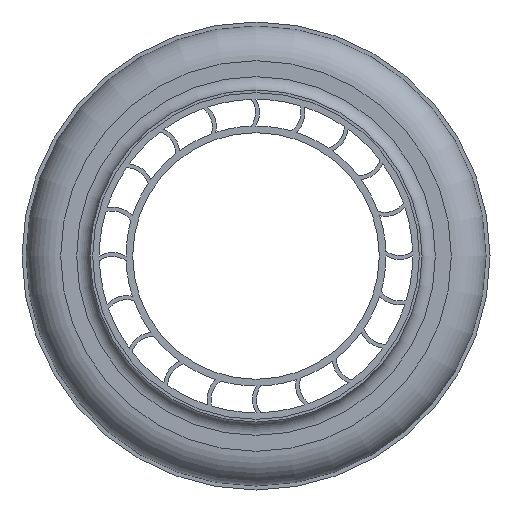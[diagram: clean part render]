
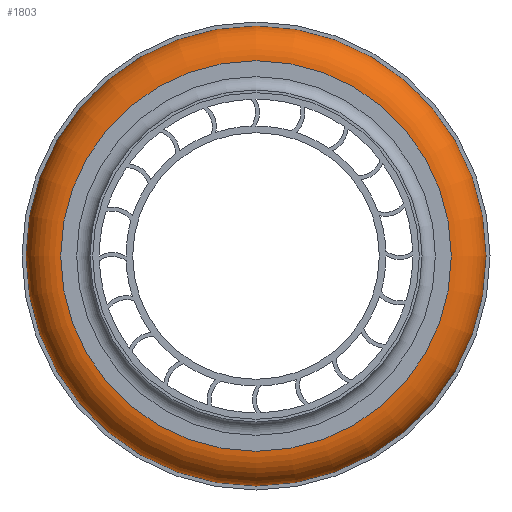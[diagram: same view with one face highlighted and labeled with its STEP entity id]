
A CAD part, left-side view. The second image highlights one B-rep face of the part: STEP entity #1803.
In plain terms, the highlighted toroidal (fillet/blend) face has major radius 146.5 mm and minor radius 26 mm.
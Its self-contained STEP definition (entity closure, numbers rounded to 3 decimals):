
#180=TOROIDAL_SURFACE('',#1926,146.5,26.);
#199=FACE_BOUND('',#378,.T.);
#265=FACE_OUTER_BOUND('',#377,.T.);
#377=EDGE_LOOP('',(#1187));
#378=EDGE_LOOP('',(#1188));
#541=CIRCLE('',#1920,172.5);
#544=CIRCLE('',#1925,146.5);
#727=VERTEX_POINT('',#2883);
#730=VERTEX_POINT('',#2891);
#913=EDGE_CURVE('',#727,#727,#541,.T.);
#916=EDGE_CURVE('',#730,#730,#544,.T.);
#1187=ORIENTED_EDGE('',*,*,#913,.F.);
#1188=ORIENTED_EDGE('',*,*,#916,.T.);
#1803=ADVANCED_FACE('',(#265,#199),#180,.T.);
#1920=AXIS2_PLACEMENT_3D('',#2884,#2222,#2223);
#1925=AXIS2_PLACEMENT_3D('',#2892,#2232,#2233);
#1926=AXIS2_PLACEMENT_3D('',#2893,#2234,#2235);
#2222=DIRECTION('center_axis',(1.,0.,0.));
#2223=DIRECTION('ref_axis',(0.,0.,-1.));
#2232=DIRECTION('center_axis',(1.,0.,0.));
#2233=DIRECTION('ref_axis',(0.,0.,-1.));
#2234=DIRECTION('center_axis',(1.,0.,0.));
#2235=DIRECTION('ref_axis',(0.,0.,-1.));
#2883=CARTESIAN_POINT('',(59.,172.5,0.));
#2884=CARTESIAN_POINT('Origin',(59.,0.,0.));
#2891=CARTESIAN_POINT('',(33.,146.5,0.));
#2892=CARTESIAN_POINT('Origin',(33.,0.,0.));
#2893=CARTESIAN_POINT('Origin',(59.,0.,0.));
